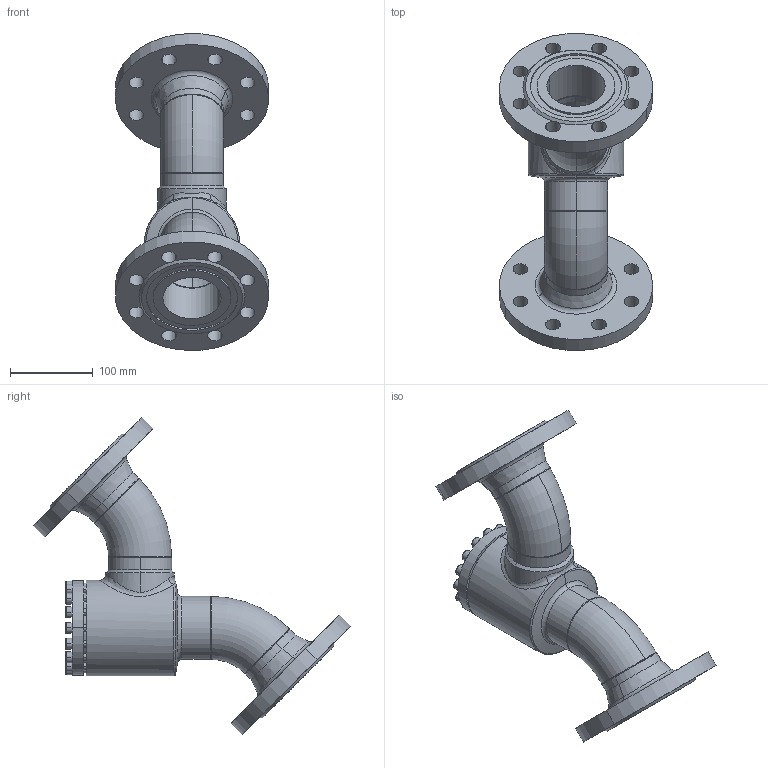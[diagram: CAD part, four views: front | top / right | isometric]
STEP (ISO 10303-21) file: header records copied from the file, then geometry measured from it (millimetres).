
FILE_DESCRIPTION (( 'STEP AP214' ), '1' );
FILE_NAME ('SS52320D17-DN065_DIN-FL-N_PS40.STEP', '2006-05-02T05:48:13', ( 'Herr Grams' ), ( 'AWP GmbH' ), 'SwSTEP 2.0', 'SolidWorks 2002296', '' );
FILE_SCHEMA (( 'AUTOMOTIVE_DESIGN' ));
Length unit declared in the file: millimetre
Products named in the file (13): SS52320D17-DN065_DIN-FL-N_PS40; Gehäuse-kpl16320-DN065_DIN_PS40_Standard; Gehäuse-kpl16300-DN065_R1_Standard; Gehäuse16400-DN065_Standard; Rohrbogen 45°_Rohrbogen-DN065-45°; bead-DN065-3_Standard; bead-DN065-2_Standard; Flansch-DIN-Nut_PS40_DIN-Flansch-DN065_PS40-Nut; bead-DN065-7_Standard; bead-DN065-6_Standard; SS52300K17_Deck+Schr-DN65_Standard; Deckel52300K17-DN65_Standard; Zylinderschraube-DIN912_M 8x 25
Assembly tree (29 placements, depth 4):
  SS52320D17-DN065_DIN-FL-N_PS40
    Gehäuse-kpl16320-DN065_DIN_PS40_Standard
      bead-DN065-6_Standard
      Gehäuse-kpl16300-DN065_R1_Standard
        bead-DN065-2_Standard
        Gehäuse16400-DN065_Standard
        Rohrbogen 45°_Rohrbogen-DN065-45°  x2
        bead-DN065-3_Standard
      Flansch-DIN-Nut_PS40_DIN-Flansch-DN065_PS40-Nut  x2
      bead-DN065-7_Standard
    SS52300K17_Deck+Schr-DN65_Standard
      Zylinderschraube-DIN912_M 8x 25  x16
      Deckel52300K17-DN65_Standard
Bounding box: 184.82 x 382.4 x 382.4 mm (x, y, z)
Volume: 1656478.3 mm3; surface area: 408702.9 mm2
Topology: 26 solids, 26 shells, 482 faces, 1114 edges, 711 vertices
Faces by surface type: plane 194, cylinder 172, cone 50, torus 48, bspline 18
Entity records: 17690 total; most frequent: CARTESIAN_POINT 12817, DIRECTION 940, ORIENTED_EDGE 836, EDGE_CURVE 418, AXIS2_PLACEMENT_3D 409, VERTEX_POINT 269, EDGE_LOOP 233, CIRCLE 224
